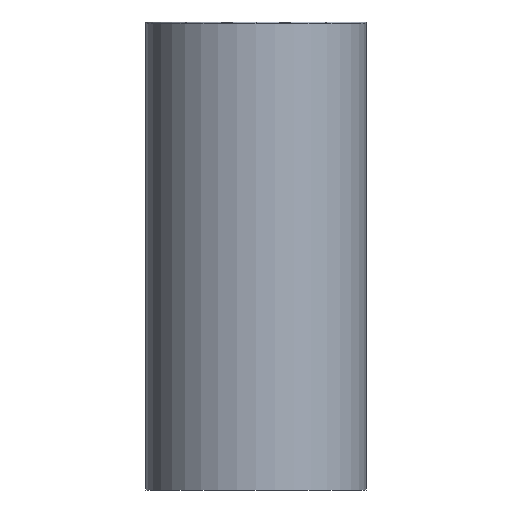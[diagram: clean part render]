
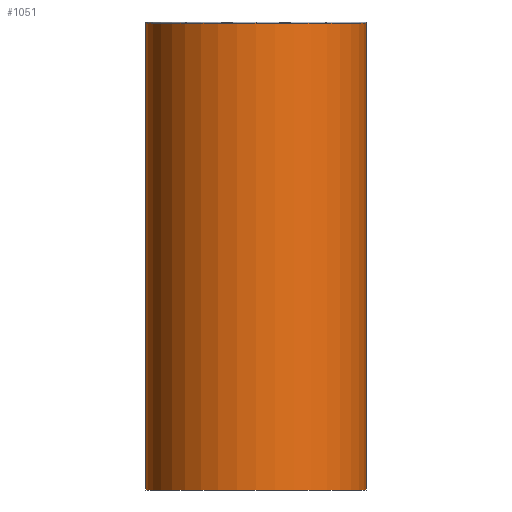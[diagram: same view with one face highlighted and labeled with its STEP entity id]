
A CAD part, front view. The second image highlights one B-rep face of the part: STEP entity #1051.
In plain terms, the highlighted cylindrical face has radius 200 mm (diameter 400 mm), a partial arc.
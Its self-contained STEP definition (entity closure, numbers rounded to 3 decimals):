
#236=CARTESIAN_POINT('',(0.,0.,848.));
#237=DIRECTION('',(0.,0.,-1.));
#238=DIRECTION('',(1.,0.,0.));
#239=AXIS2_PLACEMENT_3D('',#236,#237,#238);
#241=DIRECTION('',(0.,0.,-1.));
#242=VECTOR('',#241,848.);
#243=CARTESIAN_POINT('',(200.,0.,848.));
#244=LINE('',#243,#242);
#245=DIRECTION('',(0.,0.,1.));
#246=VECTOR('',#245,848.);
#247=CARTESIAN_POINT('',(-200.,0.,0.));
#248=LINE('',#247,#246);
#259=CARTESIAN_POINT('',(0.,0.,0.));
#260=DIRECTION('',(0.,0.,1.));
#261=DIRECTION('',(-1.,0.,0.));
#262=AXIS2_PLACEMENT_3D('',#259,#260,#261);
#661=CARTESIAN_POINT('',(200.,0.,0.));
#662=CARTESIAN_POINT('',(-200.,0.,0.));
#663=VERTEX_POINT('',#661);
#664=VERTEX_POINT('',#662);
#685=CARTESIAN_POINT('',(-200.,0.,848.));
#686=CARTESIAN_POINT('',(200.,0.,848.));
#687=VERTEX_POINT('',#685);
#688=VERTEX_POINT('',#686);
#1038=CARTESIAN_POINT('',(0.,0.,849.));
#1039=DIRECTION('',(0.,0.,1.));
#1040=DIRECTION('',(1.,0.,0.));
#1041=AXIS2_PLACEMENT_3D('',#1038,#1039,#1040);
#1042=CYLINDRICAL_SURFACE('',#1041,200.);
#1044=ORIENTED_EDGE('',*,*,#1043,.F.);
#1045=ORIENTED_EDGE('',*,*,#1015,.T.);
#1047=ORIENTED_EDGE('',*,*,#1046,.F.);
#1048=ORIENTED_EDGE('',*,*,#1011,.T.);
#1049=EDGE_LOOP('',(#1044,#1045,#1047,#1048));
#1050=FACE_OUTER_BOUND('',#1049,.F.);
#1051=ADVANCED_FACE('',(#1050),#1042,.T.);
#240=CIRCLE('',#239,200.);
#263=CIRCLE('',#262,200.);
#1011=EDGE_CURVE('',#664,#687,#248,.T.);
#1015=EDGE_CURVE('',#688,#663,#244,.T.);
#1043=EDGE_CURVE('',#688,#687,#240,.T.);
#1046=EDGE_CURVE('',#664,#663,#263,.T.);
